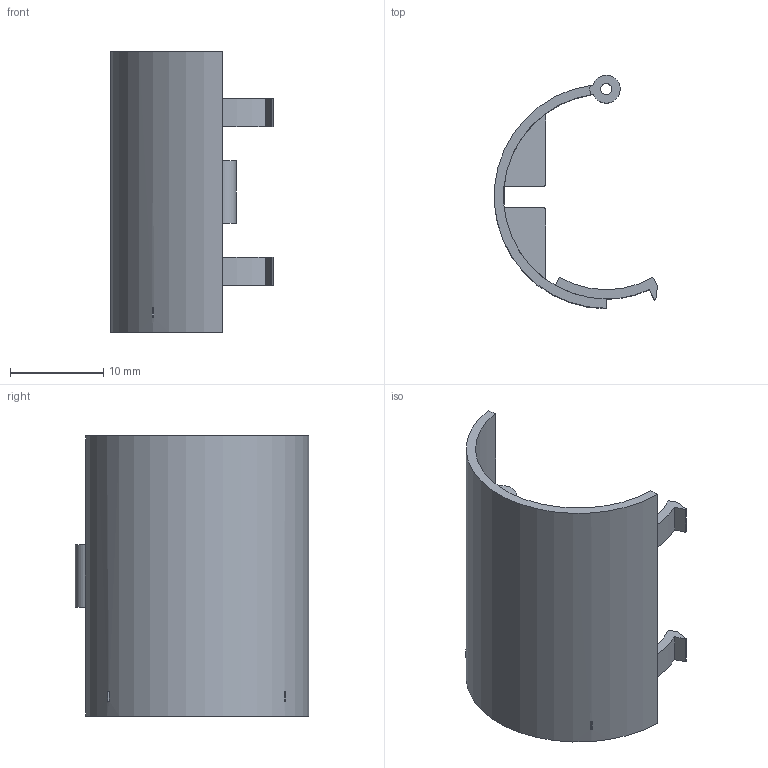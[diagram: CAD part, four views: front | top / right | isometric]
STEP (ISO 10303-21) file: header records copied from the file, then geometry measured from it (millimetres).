
FILE_DESCRIPTION(/* description */ (''),/* implementation_level */ '2;1');
FILE_NAME(/* name */ 'Z:\Projectgegevens\Group Denys-Willuhn\16104 Baseplate beschermhuls miniscope Rat\mantel links V2.stp',/* time_stamp */ '2017-10-27T14:14:34+02:00',/* author */ ('bos'),/* organization */ (''),/* preprocessor_version */ 'ST-DEVELOPER v16.5',/* originating_system */ 'Autodesk Inventor 2017',/* authorisation */ '');
FILE_SCHEMA (('AUTOMOTIVE_DESIGN { 1 0 10303 214 3 1 1 }'));
Length unit declared in the file: millimetre
Products named in the file (1): mantel links V2
Bounding box: 17.47 x 25 x 30 mm (x, y, z)
Volume: 1239.2 mm3; surface area: 2523.1 mm2
Topology: 1 solids, 1 shells, 57 faces, 148 edges, 95 vertices
Faces by surface type: plane 35, cylinder 20, sphere 2
Full cylindrical faces by diameter (mm): 1.2 x1
Entity records: 1782 total; most frequent: CARTESIAN_POINT 316, DIRECTION 314, ORIENTED_EDGE 292, EDGE_CURVE 146, AXIS2_PLACEMENT_3D 112, VERTEX_POINT 94, LINE 90, VECTOR 90
